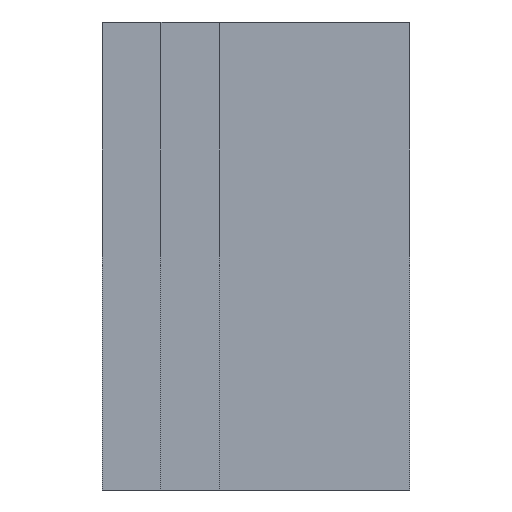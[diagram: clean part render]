
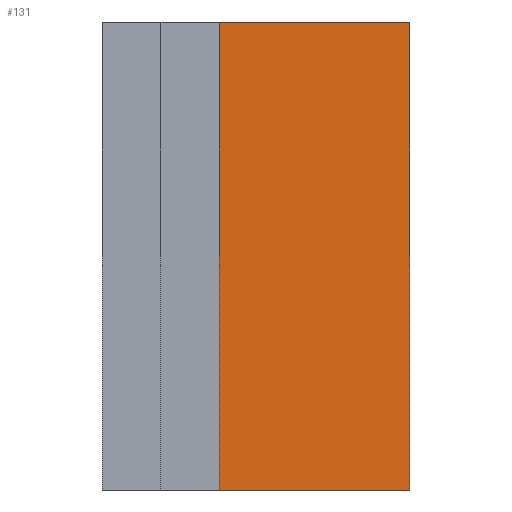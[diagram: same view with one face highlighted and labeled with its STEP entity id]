
A CAD part, left-side view. The second image highlights one B-rep face of the part: STEP entity #131.
In plain terms, the highlighted planar face has unit normal (-1, 0, 0).
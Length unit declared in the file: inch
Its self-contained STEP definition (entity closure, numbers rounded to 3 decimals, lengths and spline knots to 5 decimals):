
#2 = EDGE_CURVE ( 'NONE', #23, #299, #379, .T. ) ;
#6 = VECTOR ( 'NONE', #266, 39.37008 ) ;
#20 = LINE ( 'NONE', #328, #213 ) ;
#23 = VERTEX_POINT ( 'NONE', #496 ) ;
#27 = AXIS2_PLACEMENT_3D ( 'NONE', #159, #90, #486 ) ;
#53 = DIRECTION ( 'NONE',  ( 0., -1., 0. ) ) ;
#72 = CARTESIAN_POINT ( 'NONE',  ( -5., 0., -1. ) ) ;
#78 = DIRECTION ( 'NONE',  ( 0., -1., 0. ) ) ;
#90 = DIRECTION ( 'NONE',  ( -1., 0., 0. ) ) ;
#102 = EDGE_CURVE ( 'NONE', #234, #445, #470, .T. ) ;
#107 = CARTESIAN_POINT ( 'NONE',  ( -5., 0., -1. ) ) ;
#126 = CARTESIAN_POINT ( 'NONE',  ( -5., 0., 0. ) ) ;
#131 = ADVANCED_FACE ( 'NONE', ( #156 ), #317, .T. ) ;
#156 = FACE_OUTER_BOUND ( 'NONE', #391, .T. ) ;
#159 = CARTESIAN_POINT ( 'NONE',  ( -5., 0., -1. ) ) ;
#187 = ORIENTED_EDGE ( 'NONE', *, *, #2, .F. ) ;
#213 = VECTOR ( 'NONE', #53, 39.37008 ) ;
#218 = CARTESIAN_POINT ( 'NONE',  ( -5., 0.406, -1. ) ) ;
#234 = VERTEX_POINT ( 'NONE', #72 ) ;
#244 = ORIENTED_EDGE ( 'NONE', *, *, #102, .T. ) ;
#266 = DIRECTION ( 'NONE',  ( 0., 0., 1. ) ) ;
#287 = EDGE_CURVE ( 'NONE', #299, #445, #467, .T. ) ;
#299 = VERTEX_POINT ( 'NONE', #429 ) ;
#317 = PLANE ( 'NONE',  #27 ) ;
#325 = ORIENTED_EDGE ( 'NONE', *, *, #287, .F. ) ;
#328 = CARTESIAN_POINT ( 'NONE',  ( -5., 0., -1. ) ) ;
#367 = VECTOR ( 'NONE', #78, 39.37008 ) ;
#377 = VECTOR ( 'NONE', #384, 39.37008 ) ;
#379 = LINE ( 'NONE', #218, #377 ) ;
#384 = DIRECTION ( 'NONE',  ( 0., 0., 1. ) ) ;
#391 = EDGE_LOOP ( 'NONE', ( #325, #187, #475, #244 ) ) ;
#429 = CARTESIAN_POINT ( 'NONE',  ( -5., 0.406, 0. ) ) ;
#445 = VERTEX_POINT ( 'NONE', #126 ) ;
#450 = EDGE_CURVE ( 'NONE', #23, #234, #20, .T. ) ;
#467 = LINE ( 'NONE', #478, #367 ) ;
#470 = LINE ( 'NONE', #107, #6 ) ;
#475 = ORIENTED_EDGE ( 'NONE', *, *, #450, .T. ) ;
#478 = CARTESIAN_POINT ( 'NONE',  ( -5., 0., 0. ) ) ;
#486 = DIRECTION ( 'NONE',  ( 0., 0., 1. ) ) ;
#496 = CARTESIAN_POINT ( 'NONE',  ( -5., 0.406, -1. ) ) ;
